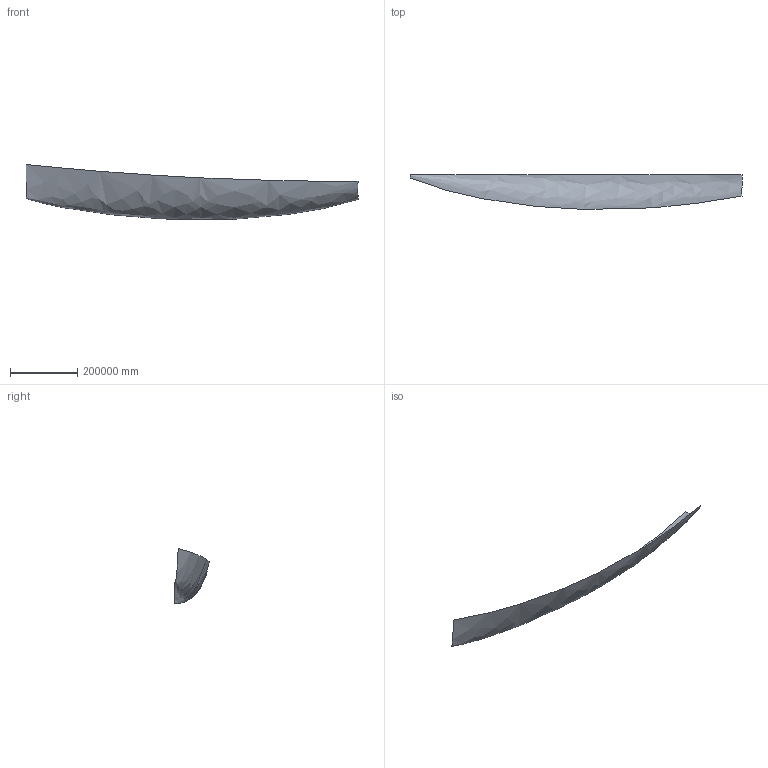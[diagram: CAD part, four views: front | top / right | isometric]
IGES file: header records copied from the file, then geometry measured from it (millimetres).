
Start section: IGES 5.2 file written by MultiSurf 05-Feb-2004  22:49:47 Model file: ARROW_3
Global section: file name: C:\DOCUME~1\anders\LOCALS~1\Temp\~MS5.tmp; native system: MultiSurf 4.7.1; preprocessor: RGKernel 2.50; author: NO_AUTHOR; organization: NO_COMPANY; date: 040205.224947; units: metre
Bounding box: 984000 x 103388.99 x 162285 mm (x, y, z)
Surface area: 150047228836.5 mm2 (no closed solid volume)
Topology: 0 solids, 0 shells, 1 faces, 4 edges, 4 vertices
Faces by surface type: bspline 1
